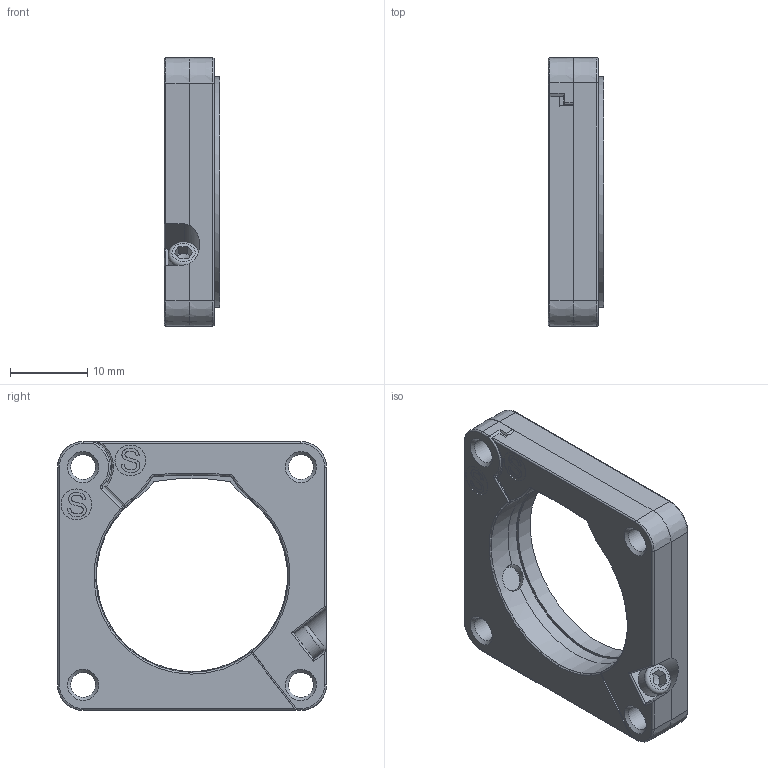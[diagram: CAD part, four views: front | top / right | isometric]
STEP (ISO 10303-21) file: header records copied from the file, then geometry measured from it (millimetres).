
FILE_DESCRIPTION((''),'2;1');
FILE_NAME('\\iscluster-file.intercontec.int.\zz-desktop$\Eder\Desktop\3D-Daten\E0.223.02 - Y8.A021.00.stp','2012-06-25T12:05:37',('Eder'),(''),'Autodesk Inventor 2011','Autodesk Inventor 2011','');
FILE_SCHEMA(('AUTOMOTIVE_DESIGN { 1 0 10303 214 1 1 1 1 }'));
Length unit declared in the file: millimetre
Products named in the file (1): 126902
Bounding box: 7.2 x 34.9 x 34.9 mm (x, y, z)
Volume: 4401.6 mm3; surface area: 3494.2 mm2
Topology: 1 solids, 1 shells, 556 faces, 1486 edges, 957 vertices
Faces by surface type: plane 346, bspline 70, cylinder 65, cone 46, torus 29
Full cylindrical faces by diameter (mm): 3 x2, 3.242 x4, 3.4 x1, 4 x4, 4.2 x1, 4.98 x1, 30 x1
Entity records: 17705 total; most frequent: CARTESIAN_POINT 4346, ORIENTED_EDGE 2878, DIRECTION 2474, EDGE_CURVE 1439, VECTOR 992, LINE 992, VERTEX_POINT 940, AXIS2_PLACEMENT_3D 741
